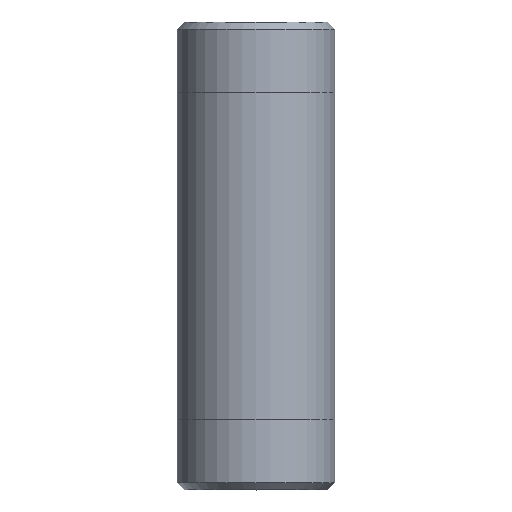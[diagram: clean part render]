
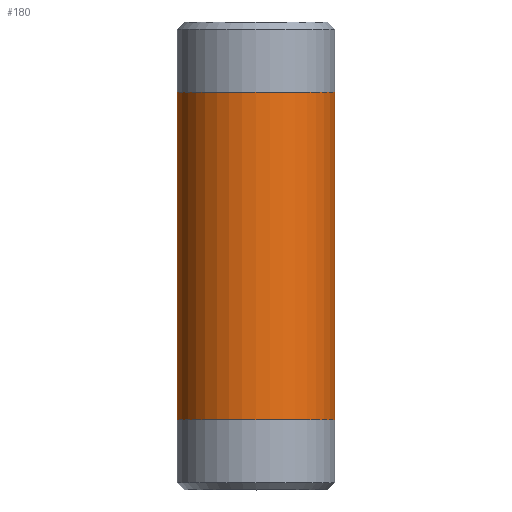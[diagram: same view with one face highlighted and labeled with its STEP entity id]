
A CAD part, top view. The second image highlights one B-rep face of the part: STEP entity #180.
In plain terms, the highlighted cylindrical face has radius 8.572 mm (diameter 17.145 mm), a full revolution.
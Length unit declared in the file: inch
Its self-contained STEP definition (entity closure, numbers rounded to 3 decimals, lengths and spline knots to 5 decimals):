
#25=CYLINDRICAL_SURFACE('',#220,0.3375);
#34=FACE_OUTER_BOUND('',#47,.T.);
#47=EDGE_LOOP('',(#155,#156,#157,#158,#159,#160));
#55=LINE('',#338,#61);
#61=VECTOR('',#283,0.3375);
#77=CIRCLE('',#218,0.3375);
#78=CIRCLE('',#219,0.3375);
#79=CIRCLE('',#221,0.3375);
#80=CIRCLE('',#222,0.3375);
#95=VERTEX_POINT('',#329);
#96=VERTEX_POINT('',#330);
#97=VERTEX_POINT('',#334);
#98=VERTEX_POINT('',#335);
#117=EDGE_CURVE('',#95,#96,#77,.T.);
#118=EDGE_CURVE('',#96,#95,#78,.T.);
#119=EDGE_CURVE('',#97,#98,#79,.T.);
#120=EDGE_CURVE('',#98,#97,#80,.T.);
#121=EDGE_CURVE('',#98,#96,#55,.T.);
#155=ORIENTED_EDGE('',*,*,#119,.F.);
#156=ORIENTED_EDGE('',*,*,#120,.F.);
#157=ORIENTED_EDGE('',*,*,#121,.T.);
#158=ORIENTED_EDGE('',*,*,#118,.T.);
#159=ORIENTED_EDGE('',*,*,#117,.T.);
#160=ORIENTED_EDGE('',*,*,#121,.F.);
#180=ADVANCED_FACE('',(#34),#25,.T.);
#218=AXIS2_PLACEMENT_3D('',#331,#273,#274);
#219=AXIS2_PLACEMENT_3D('',#332,#275,#276);
#220=AXIS2_PLACEMENT_3D('',#333,#277,#278);
#221=AXIS2_PLACEMENT_3D('',#336,#279,#280);
#222=AXIS2_PLACEMENT_3D('',#337,#281,#282);
#273=DIRECTION('center_axis',(0.,-1.,0.));
#274=DIRECTION('ref_axis',(1.,0.,0.));
#275=DIRECTION('center_axis',(0.,-1.,0.));
#276=DIRECTION('ref_axis',(1.,0.,0.));
#277=DIRECTION('center_axis',(0.,-1.,0.));
#278=DIRECTION('ref_axis',(0.,0.,-1.));
#279=DIRECTION('center_axis',(0.,-1.,0.));
#280=DIRECTION('ref_axis',(1.,0.,0.));
#281=DIRECTION('center_axis',(0.,-1.,0.));
#282=DIRECTION('ref_axis',(1.,0.,0.));
#283=DIRECTION('',(0.,1.,0.));
#329=CARTESIAN_POINT('',(0.,1.7,-0.3375));
#330=CARTESIAN_POINT('',(0.,1.7,0.3375));
#331=CARTESIAN_POINT('Origin',(0.,1.7,0.));
#332=CARTESIAN_POINT('Origin',(0.,1.7,0.));
#333=CARTESIAN_POINT('Origin',(0.,1.,0.));
#334=CARTESIAN_POINT('',(0.,0.3,-0.3375));
#335=CARTESIAN_POINT('',(0.,0.3,0.3375));
#336=CARTESIAN_POINT('Origin',(0.,0.3,0.));
#337=CARTESIAN_POINT('Origin',(0.,0.3,0.));
#338=CARTESIAN_POINT('',(0.,1.,0.3375));
